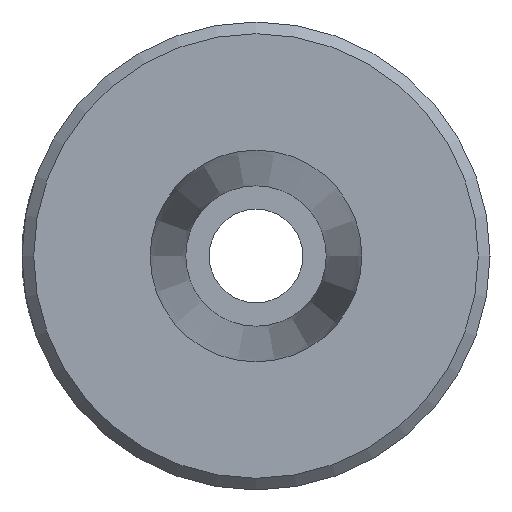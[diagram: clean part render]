
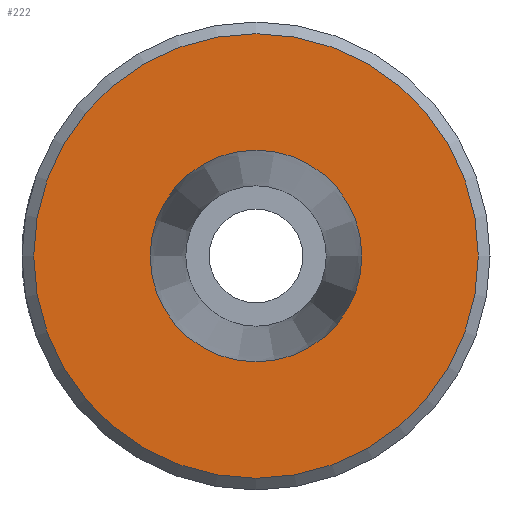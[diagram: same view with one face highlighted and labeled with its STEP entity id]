
A CAD part, left-side view. The second image highlights one B-rep face of the part: STEP entity #222.
In plain terms, the highlighted planar face has unit normal (-1, 0, 0).
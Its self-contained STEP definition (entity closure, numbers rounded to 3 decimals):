
#15=FACE_BOUND('',#65,.T.);
#32=CIRCLE('',#265,9.05);
#33=CIRCLE('',#267,19.);
#50=FACE_OUTER_BOUND('',#64,.T.);
#64=EDGE_LOOP('',(#184));
#65=EDGE_LOOP('',(#185));
#116=VERTEX_POINT('',#421);
#117=VERTEX_POINT('',#425);
#142=EDGE_CURVE('',#116,#116,#32,.T.);
#143=EDGE_CURVE('',#117,#117,#33,.T.);
#184=ORIENTED_EDGE('',*,*,#143,.F.);
#185=ORIENTED_EDGE('',*,*,#142,.T.);
#211=PLANE('',#266);
#222=ADVANCED_FACE('',(#50,#15),#211,.T.);
#265=AXIS2_PLACEMENT_3D('',#423,#317,#318);
#266=AXIS2_PLACEMENT_3D('',#424,#319,#320);
#267=AXIS2_PLACEMENT_3D('',#426,#321,#322);
#317=DIRECTION('center_axis',(1.,0.,0.));
#318=DIRECTION('ref_axis',(0.,0.,-1.));
#319=DIRECTION('center_axis',(-1.,0.,0.));
#320=DIRECTION('ref_axis',(0.,0.,1.));
#321=DIRECTION('center_axis',(1.,0.,0.));
#322=DIRECTION('ref_axis',(0.,0.,-1.));
#421=CARTESIAN_POINT('',(0.,-9.05,0.));
#423=CARTESIAN_POINT('Origin',(0.,0.,0.));
#424=CARTESIAN_POINT('Origin',(0.,19.,0.));
#425=CARTESIAN_POINT('',(0.,-19.,0.));
#426=CARTESIAN_POINT('Origin',(0.,0.,0.));
